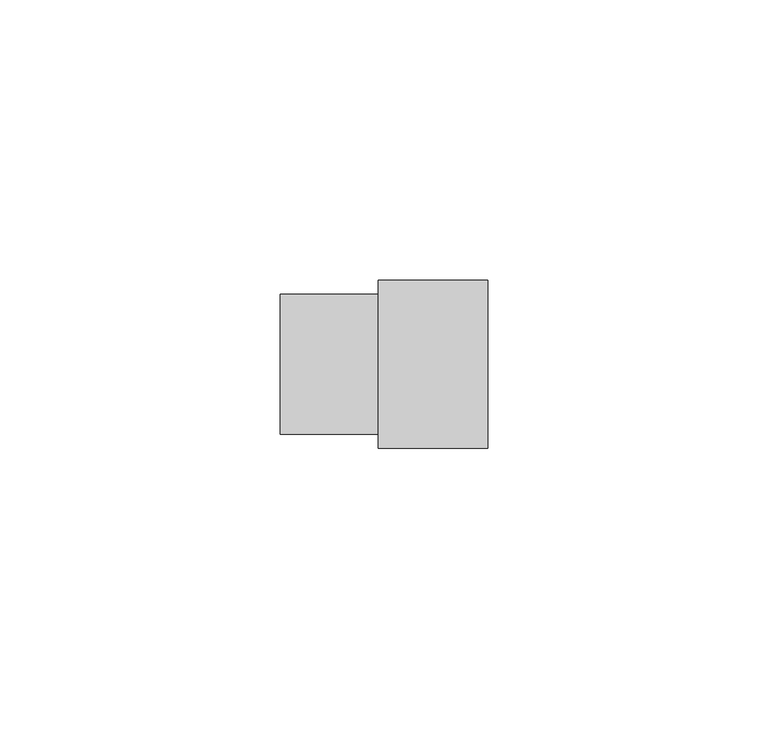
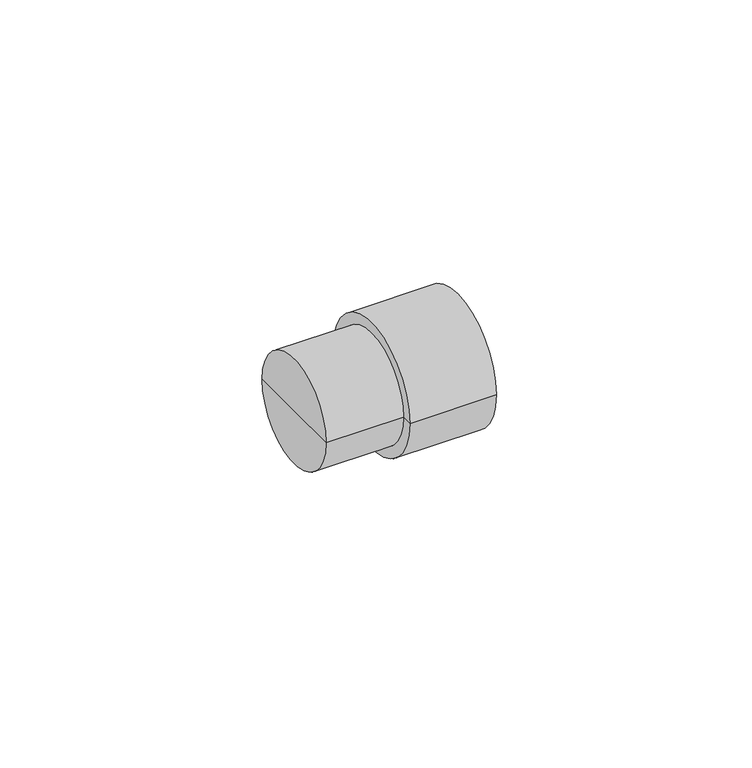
"""IFC4 building model written with IfcOpenShell, lengths in millimetres: pipe fitting geometry, KAN-therm PP mufa redukcyjna nyplowa : KAN-therm PP mufa redukcyjna nyplowa."""

from ifc_helpers import new_model, si_unit, frame, origin, place, context, project, spatial, circle_curve, source, transform, mapped, element, save
from ifc_brep_helpers import plane_surface, cylinder_surface, advanced_brep


def pipe_fitting_20d86fd1(model_context):
    return source(origin(), model_context, "Body", "AdvancedBrep", [
        advanced_brep(
        [(18.5, 0.0, 0.0), (18.5, -15.0, 0.0), (18.5, 15.0, 0.0), (-18.5, 12.5, 0.0), (-18.5, -12.5, 0.0), (-18.5, 0.0, 0.0), (-1.0, 12.5, 0.0), (-1.0, -12.5, 0.0), (-1.0, 15.0, 0.0), (-1.0, -15.0, 0.0)],
        [
            (0, 1),
            (1, 2, circle_curve(frame((18.5, 0.0, 0.0), z_axis=(1.0, 0.0, 0.0), x_axis=(0.0, -1.0, 0.0)), 15.0)),
            (2, 0),
            (2, 1, circle_curve(frame((18.5, 0.0, 0.0), z_axis=(1.0, 0.0, 0.0), x_axis=(0.0, -1.0, 0.0)), 15.0)),
            (3, 4, circle_curve(frame((-18.5, 0.0, 0.0), z_axis=(-1.0, 0.0, 0.0), x_axis=(0.0, -1.0, 0.0)), 12.5)),
            (4, 5),
            (5, 3),
            (4, 3, circle_curve(frame((-18.5, 0.0, 0.0), z_axis=(-1.0, 0.0, 0.0), x_axis=(0.0, -1.0, 0.0)), 12.5)),
            (6, 7, circle_curve(frame((-1.0, 0.0, 0.0), z_axis=(-1.0, 0.0, 0.0), x_axis=(0.0, -1.0, 0.0)), 12.5)),
            (7, 4),
            (3, 6),
            (7, 6, circle_curve(frame((-1.0, 0.0, 0.0), z_axis=(-1.0, 0.0, 0.0), x_axis=(0.0, -1.0, 0.0)), 12.5)),
            (8, 9, circle_curve(frame((-1.0, 0.0, 0.0), z_axis=(-1.0, 0.0, 0.0), x_axis=(0.0, -1.0, 0.0)), 15.0)),
            (9, 7),
            (6, 8),
            (9, 8, circle_curve(frame((-1.0, 0.0, 0.0), z_axis=(-1.0, 0.0, 0.0), x_axis=(0.0, -1.0, 0.0)), 15.0)),
            (1, 9),
            (8, 2),
        ],
        [
            plane_surface(frame((18.5, 0.0, 0.0), z_axis=(1.0, 0.0, 0.0), x_axis=(0.0, -1.0, 0.0))),
            plane_surface(frame((-18.5, 0.0, 0.0), z_axis=(-1.0, 0.0, 0.0), x_axis=(0.0, -1.0, 0.0))),
            cylinder_surface(frame((1991.0, 0.0, 0.0), z_axis=(1.0, 0.0, 0.0), x_axis=(0.0, -1.0, 0.0)), 12.5),
            plane_surface(frame((-1.0, 0.0, 0.0), z_axis=(-1.0, 0.0, 0.0), x_axis=(0.0, -1.0, 0.0))),
            cylinder_surface(frame((1991.0, 0.0, 0.0), z_axis=(1.0, 0.0, 0.0), x_axis=(0.0, -1.0, 0.0)), 15.0),
        ],
        [
            (0, [[1, 2, 3]]),
            (0, [[-3, 4, -1]]),
            (1, [[5, 6, 7]]),
            (1, [[8, -7, -6]]),
            (2, [[9, 10, -5, 11]]),
            (2, [[12, -11, -8, -10]]),
            (3, [[13, 14, -9, 15]]),
            (3, [[16, -15, -12, -14]]),
            (4, [[-2, 17, -13, 18]]),
            (4, [[-4, -18, -16, -17]]),
        ],
    ),
    ])


if __name__ == "__main__":
    model = new_model("IFC4")
    model_context = context("Model", 3, world=origin())
    ifc_project = project(units=[si_unit("LENGTHUNIT", "METRE", prefix="MILLI")], contexts=[model_context])
    site = spatial("IfcSite", under=ifc_project)
    building = spatial("IfcBuilding", under=site)
    placement = place(None, origin())
    pipe_fitting_shape = pipe_fitting_20d86fd1(model_context)
    element("IfcPipeFitting", 1, ObjectType="KAN-therm PP mufa redukcyjna nyplowa : KAN-therm PP mufa redukcyjna nyplowa", at=placement, inside=building, context=model_context, shape_type="MappedRepresentation", body=[
        mapped(pipe_fitting_shape, transform((0.0, 0.0, 0.0), x_axis=(1.0, 0.0, 0.0), y_axis=(0.0, 1.0, 0.0), z_axis=(0.0, 0.0, 1.0))),
    ])
    save(model, "model.ifc")
